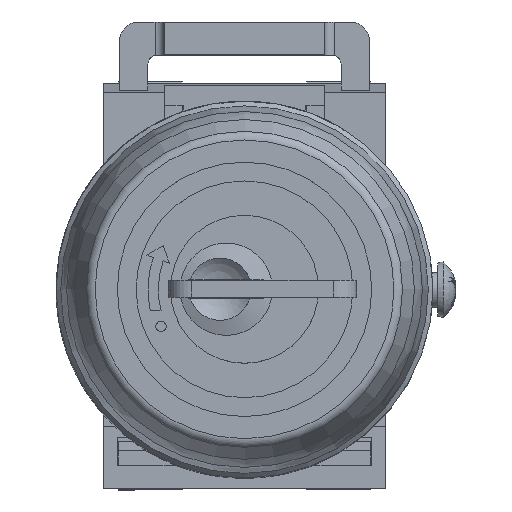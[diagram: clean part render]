
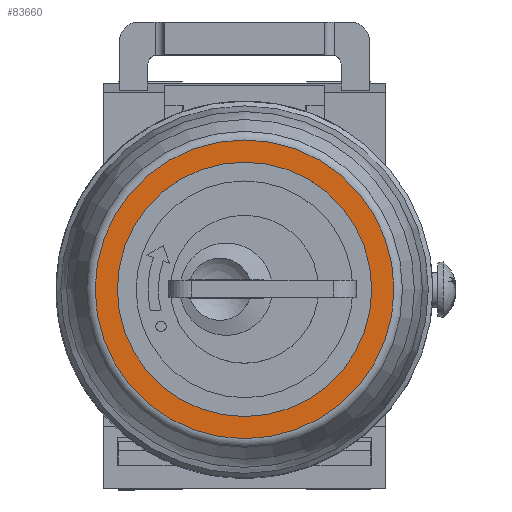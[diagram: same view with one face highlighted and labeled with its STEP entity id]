
A CAD part, top view. The second image highlights one B-rep face of the part: STEP entity #83660.
In plain terms, the highlighted planar face has unit normal (0, 0, 1).
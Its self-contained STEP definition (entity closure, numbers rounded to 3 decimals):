
#83633=CARTESIAN_POINT('',(7.073,21.,86.9));
#83634=DIRECTION('',(0.0,0.0,1.0));
#83635=DIRECTION('',(1.0,0.0,0.0));
#83636=AXIS2_PLACEMENT_3D('',#83633,#83634,#83635);
#83637=PLANE('',#83636);
#83638=CARTESIAN_POINT('',(-0.853,21.,86.9));
#83639=VERTEX_POINT('',#83638);
#83640=CARTESIAN_POINT('',(15.0,21.,86.9));
#83641=DIRECTION('',(0.0,0.0,-1.0));
#83642=DIRECTION('',(-1.0,0.0,0.0));
#83643=AXIS2_PLACEMENT_3D('',#83640,#83641,#83642);
#83644=CIRCLE('',#83643,15.853);
#83645=EDGE_CURVE('',#83639,#83639,#83644,.T.);
#83646=ORIENTED_EDGE('',*,*,#83645,.F.);
#83647=EDGE_LOOP('',(#83646));
#83648=FACE_OUTER_BOUND('',#83647,.T.);
#83649=CARTESIAN_POINT('',(28.5,21.,86.9));
#83650=VERTEX_POINT('',#83649);
#83651=CARTESIAN_POINT('',(15.0,21.,86.9));
#83652=DIRECTION('',(0.0,0.0,-1.0));
#83653=DIRECTION('',(-1.0,0.0,0.0));
#83654=AXIS2_PLACEMENT_3D('',#83651,#83652,#83653);
#83655=CIRCLE('',#83654,13.5);
#83656=EDGE_CURVE('',#83650,#83650,#83655,.T.);
#83657=ORIENTED_EDGE('',*,*,#83656,.T.);
#83658=EDGE_LOOP('',(#83657));
#83659=FACE_BOUND('',#83658,.T.);
#83660=ADVANCED_FACE('',(#83648,#83659),#83637,.T.);
